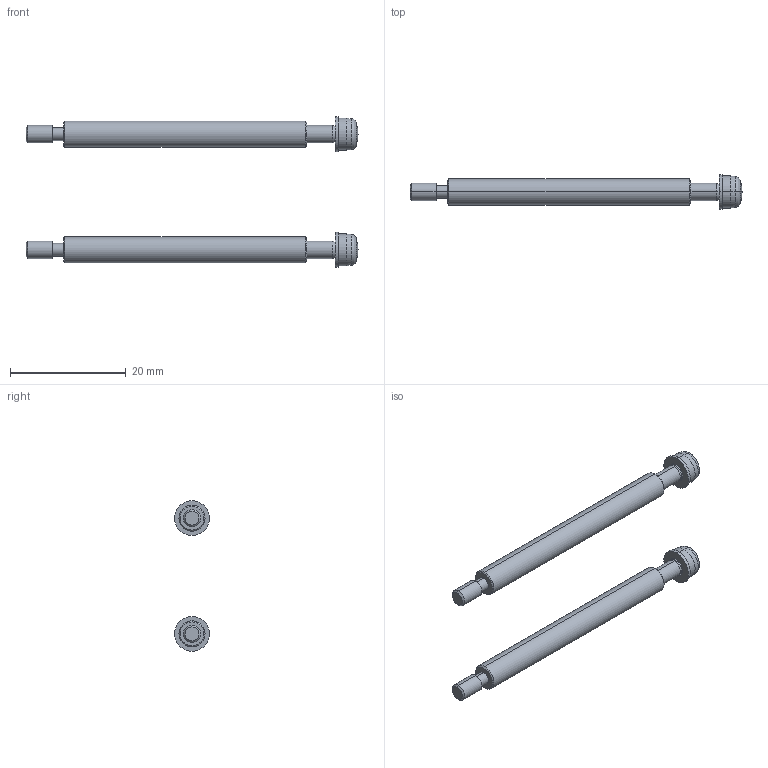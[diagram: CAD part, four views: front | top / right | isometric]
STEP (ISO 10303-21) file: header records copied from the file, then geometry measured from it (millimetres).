
FILE_DESCRIPTION( (''), '2;1');
FILE_NAME ('YS8Z-2.stp','2022-12-01T14:58:27',(''),(''),'spGate 12.6.6','','');
FILE_SCHEMA (('AUTOMOTIVE_DESIGN'));
Length unit declared in the file: millimetre
Products named in the file (3): Assembly; YS8Z-2-prt0; YS8Z-2-prt1
Assembly tree (4 placements, depth 2):
  Assembly
    YS8Z-2-prt0  x2
    YS8Z-2-prt1  x2
Bounding box: 57.4 x 6 x 26 mm (x, y, z)
Volume: 1536.5 mm3; surface area: 1977.9 mm2
Topology: 4 solids, 4 shells, 94 faces, 188 edges, 108 vertices
Faces by surface type: cylinder 40, bspline 32, plane 18, sphere 4
Entity records: 2150 total; most frequent: CARTESIAN_POINT 415, DIRECTION 182, ORIENTED_EDGE 180, COLOUR_RGB 139, PRESENTATION_STYLE_ASSIGNMENT 139, STYLED_ITEM 139, AXIS2_PLACEMENT_3D 91, EDGE_CURVE 90
